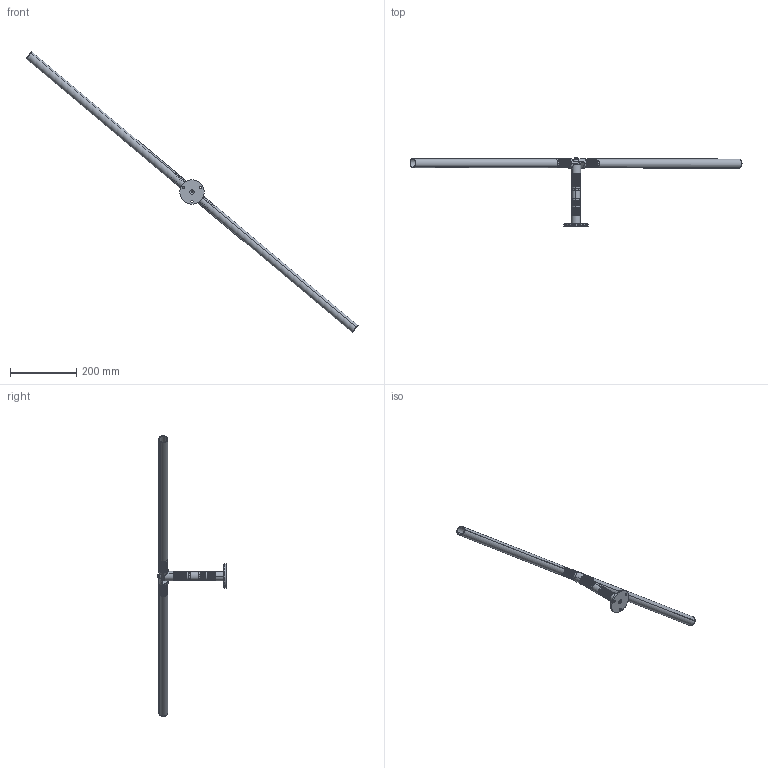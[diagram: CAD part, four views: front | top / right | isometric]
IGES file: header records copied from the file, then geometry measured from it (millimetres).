
Start section: SolidWorks IGES file using analytic representation for surfaces
Global section: file name: \\SERVER3\Design\_NEWDE~1\_DESIG~1\AAI\MODULA~1\SOLIDW~1\DEMONS~1\25DBF2~1.ASS\MODULA~1\650A7~1.TRI\TRIPLE~2\Single Sided Clevis to Male Clevis to Threaded End Connector and Threaded End Connector and Flange Connector Connection.IGS; native system: SolidWorks 2013; preprocessor: SolidWorks 2013; author: tbraun; date: 130819.112040; units: inch
Bounding box: 998.91 x 204.7 x 844.41 mm (x, y, z)
Surface area: 283884.7 mm2 (no closed solid volume)
Topology: 0 solids, 0 shells, 1113 faces, 14553 edges, 14548 vertices
Faces by surface type: revolution 636, bspline 477
